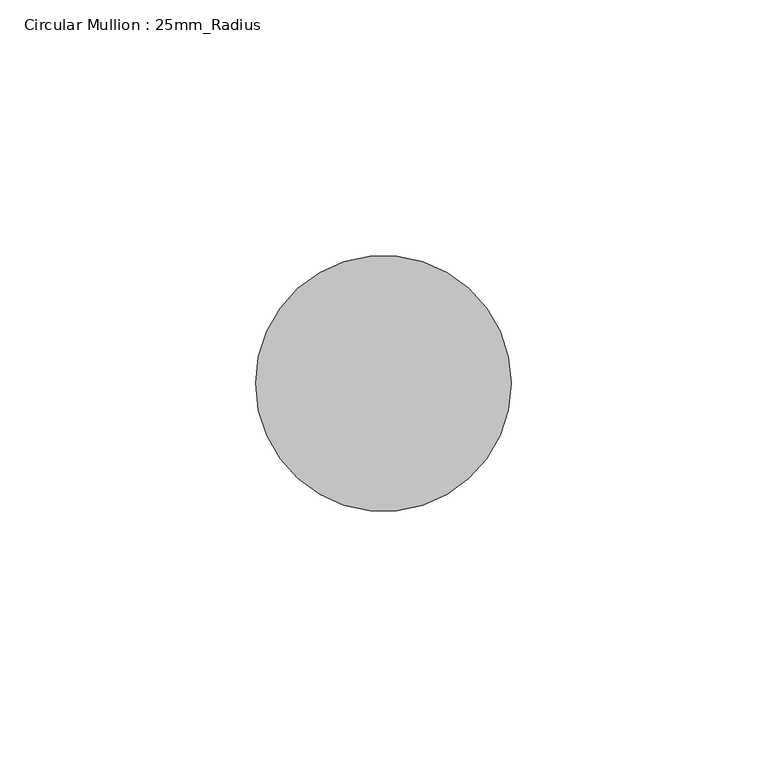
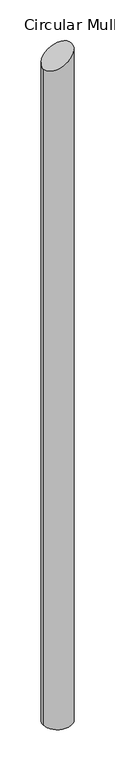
"""IFC4 building model written with IfcOpenShell, lengths in millimetres: member geometry, Circular Mullion : 25mm_Radius."""

import ifcopenshell
import ifcopenshell.guid

model = None  # the IFC model being written
_history = None  # IfcOwnerHistory: only IFC2X3 demands one
_inside = {}  # id of a spatial element -> (the spatial element, [elements in it])
_under = {}  # id of a project, library or spatial element -> (it, [spatial elements below it])
_declared = {}  # id of a project -> (the project, [libraries it declares])
_typed = {}  # id of a type object -> (the type object, [elements of that type])
_made_of = {}  # id of a material, layer set ... -> (it, [elements and type objects made of it])


def new_model(schema):
    """Start an empty IFC model of exactly this schema.

    Asked for "IFC4X3", IfcOpenShell would pick the latest addendum, in which some entities
    have other attributes; the version numbers below select the first issue.
    IFC2X3 requires an IfcOwnerHistory on every rooted entity: one is made here for all.
    """
    global model, _history
    if schema == "IFC4X3":
        model = ifcopenshell.file(schema_version=(4, 3, 0, 0))
    else:
        model = ifcopenshell.file(schema=schema)
    _inside.clear()
    _under.clear()
    _declared.clear()
    _typed.clear()
    _made_of.clear()
    _history = None
    if model.schema == "IFC2X3":
        org = make("IfcOrganization", Name="unknown")
        user = make(
            "IfcPersonAndOrganization",
            ThePerson=make("IfcPerson", FamilyName="unknown"),
            TheOrganization=org,
        )
        app = make(
            "IfcApplication",
            ApplicationDeveloper=org,
            Version="unknown",
            ApplicationFullName="unknown",
            ApplicationIdentifier="unknown",
        )
        _history = make(
            "IfcOwnerHistory",
            OwningUser=user,
            OwningApplication=app,
            ChangeAction="ADDED",
            CreationDate=0,
        )
    return model


def make(cls, **values):
    """One entity of the class cls with the attributes given. An attribute that is None is left unset."""
    return model.create_entity(
        cls, **{name: value for name, value in values.items() if value is not None}
    )


def rooted(cls, **values):
    """An entity with a GlobalId (a new one), such as an element, a storey or a relation."""
    return make(cls, GlobalId=ifcopenshell.guid.new(), OwnerHistory=_history, **values)


def si_unit(unit_type, name, prefix=None):
    """IfcSIUnit, for example si_unit("LENGTHUNIT", "METRE", prefix="MILLI")."""
    return make("IfcSIUnit", UnitType=unit_type, Prefix=prefix, Name=name)


def assignment(units):
    """IfcUnitAssignment: the units of a project."""
    return None if units is None else make("IfcUnitAssignment", Units=units)


def point(xyz):
    """IfcCartesianPoint."""
    return None if xyz is None else make("IfcCartesianPoint", Coordinates=xyz)


def direction(xyz):
    """IfcDirection."""
    return None if xyz is None else make("IfcDirection", DirectionRatios=xyz)


def frame(location, z_axis=None, x_axis=None):
    """IfcAxis2Placement3D, a coordinate frame: its origin and axes. An axis left out is left unset."""
    return make(
        "IfcAxis2Placement3D",
        Location=point(location),
        Axis=direction(z_axis),
        RefDirection=direction(x_axis),
    )


def origin():
    """The frame at (0, 0, 0) with its axes left unset."""
    return frame((0.0, 0.0, 0.0))


def place(relative_to, where):
    """IfcLocalPlacement: puts the frame where relative to a parent placement (None: the world)."""
    return make(
        "IfcLocalPlacement", PlacementRelTo=relative_to, RelativePlacement=where
    )


def context(
    kind, dimensions, precision=None, world=None, true_north=None, identifier=None
):
    """IfcGeometricRepresentationContext, for example the 3D "Model" context."""
    return make(
        "IfcGeometricRepresentationContext",
        ContextIdentifier=identifier,
        ContextType=kind,
        CoordinateSpaceDimension=dimensions,
        Precision=precision,
        WorldCoordinateSystem=world,
        TrueNorth=true_north,
    )


def project(units=None, contexts=None):
    """IfcProject with its units and contexts."""
    return rooted(
        "IfcProject",
        Name="project",
        RepresentationContexts=contexts,
        UnitsInContext=assignment(units),
    )


def spatial(cls, under=None, at=None, **own):
    """A site, building, storey or space (cls), placed at a placement, below another one or the project."""
    s = rooted(cls, ObjectPlacement=at, **own)
    if under is not None:
        _under.setdefault(under.id(), (under, []))[1].append(s)
    return s


def circle_curve(where, radius):
    """IfcCircle in the frame where."""
    return make("IfcCircle", Position=where, Radius=radius)


def ellipse_curve(where, semi_axis1, semi_axis2):
    """IfcEllipse in the frame where."""
    return make(
        "IfcEllipse", Position=where, SemiAxis1=semi_axis1, SemiAxis2=semi_axis2
    )


def shape(context_of_items, identifier, shape_type, items):
    """IfcShapeRepresentation: the items that make up one representation, for example the "Body"."""
    return make(
        "IfcShapeRepresentation",
        ContextOfItems=context_of_items,
        RepresentationIdentifier=identifier,
        RepresentationType=shape_type,
        Items=items,
    )


def source(mapping_origin, context_of_items, identifier, shape_type, items):
    """IfcRepresentationMap: a shape defined once, which mapped items show again and again."""
    return make(
        "IfcRepresentationMap",
        MappingOrigin=mapping_origin,
        MappedRepresentation=shape(context_of_items, identifier, shape_type, items),
    )


def transform(
    local_origin,
    x_axis=None,
    y_axis=None,
    z_axis=None,
    scale=None,
    scale2=None,
    scale3=None,
    uniform=True,
):
    """IfcCartesianTransformationOperator3D, or its non-uniform kind. x_axis, y_axis, z_axis: its Axis1, 2, 3."""
    if uniform:
        return make(
            "IfcCartesianTransformationOperator3D",
            Axis1=direction(x_axis),
            Axis2=direction(y_axis),
            LocalOrigin=point(local_origin),
            Scale=scale,
            Axis3=direction(z_axis),
        )
    return make(
        "IfcCartesianTransformationOperator3DnonUniform",
        Axis1=direction(x_axis),
        Axis2=direction(y_axis),
        LocalOrigin=point(local_origin),
        Scale=scale,
        Axis3=direction(z_axis),
        Scale2=scale2,
        Scale3=scale3,
    )


def mapped(mapping_source, mapping_target):
    """IfcMappedItem: shows the shape of a source again, moved by a transform."""
    return make(
        "IfcMappedItem", MappingSource=mapping_source, MappingTarget=mapping_target
    )


def made_of(thing, what):
    """Note that an element or type object is made of a material, layer set ...; save() writes the relation."""
    if what is not None:
        _made_of.setdefault(what.id(), (what, []))[1].append(thing)
    return thing


def element(
    cls,
    number,
    at=None,
    inside=None,
    cuts=None,
    type_object=None,
    material=None,
    context=None,
    identifier="Body",
    shape_type=None,
    held_by="IfcProductDefinitionShape",
    body=None,
    shapes=None,
    **own,
):
    """One element of the class cls, such as IfcWall. Its Tag is "e" and its number.

    at: its placement. inside: the storey or other place that contains it. cuts: it is an
    opening in that element (IfcRelVoidsElement). A single representation is given by context,
    identifier, shape_type and body (its items); several are given by shapes. held_by: the class
    of the entity that holds the representations. save() writes the other relations.
    """
    e = rooted(cls, Tag="e%d" % number, ObjectPlacement=at, **own)
    if body is not None:
        shapes = [shape(context, identifier, shape_type, body)]
    if shapes is not None:
        e.Representation = make(held_by, Representations=shapes)
    if inside is not None:
        _inside.setdefault(inside.id(), (inside, []))[1].append(e)
    if cuts is not None:
        rooted(
            "IfcRelVoidsElement", RelatingBuildingElement=cuts, RelatedOpeningElement=e
        )
    if type_object is not None:
        _typed.setdefault(type_object.id(), (type_object, []))[1].append(e)
    return made_of(e, material)


def aggregate(whole, parts):
    """IfcRelAggregates: a whole, such as a stair, and the parts it consists of."""
    return rooted("IfcRelAggregates", RelatingObject=whole, RelatedObjects=parts)


def save(model, path):
    """Write the relations noted so far, then the file.

    IfcRelAggregates (storeys below a building ...), IfcRelContainedInSpatialStructure (elements
    in a storey), IfcRelDefinesByType, IfcRelAssociatesMaterial and IfcRelDeclares: one each for
    every whole, place, type object, material and project.
    """
    for whole, parts in _under.values():
        aggregate(whole, parts)
    for where, things in _inside.values():
        rooted(
            "IfcRelContainedInSpatialStructure",
            RelatedElements=things,
            RelatingStructure=where,
        )
    for kind, things in _typed.values():
        rooted("IfcRelDefinesByType", RelatedObjects=things, RelatingType=kind)
    for what, things in _made_of.values():
        rooted("IfcRelAssociatesMaterial", RelatedObjects=things, RelatingMaterial=what)
    for by, libraries in _declared.values():
        rooted("IfcRelDeclares", RelatingContext=by, RelatedDefinitions=libraries)
    model.write(path)


def plane_surface(at):
    """IfcPlane: the flat surface through the origin of the frame at, square to its z axis."""
    return make("IfcPlane", Position=at)


def cylinder_surface(at, radius):
    """IfcCylindricalSurface: all points at the distance radius from the z axis of the frame at."""
    return make("IfcCylindricalSurface", Position=at, Radius=radius)


def advanced_brep(points, edges, surfaces, faces):
    """IfcAdvancedBrep: a solid bounded by faces that lie on surfaces and meet in shared edges.

    An edge is (start, end): straight between two places in points (the first is 0);
    or (start, end, curve); or (start, end, curve, False) where it runs against its curve.
    A face is (place in surfaces, loops), or (place, loops, False) where it looks against
    its surface's normal. A loop lists edges by number (the first is 1), with a minus sign
    where the edge is run from its end to its start. The first loop is the outer one.
    """
    corners = [point(p) for p in points]
    vertices = [make("IfcVertexPoint", VertexGeometry=c) for c in corners]
    made = []
    for start, end, *more in edges:
        made.append(
            make(
                "IfcEdgeCurve",
                EdgeStart=vertices[start],
                EdgeEnd=vertices[end],
                EdgeGeometry=more[0] if more else make("IfcPolyline", Points=[corners[start], corners[end]]),
                SameSense=more[1] if len(more) > 1 else True,
            )
        )
    hull = []
    for where, loops, *sense in faces:
        bounds = []
        for j, loop in enumerate(loops):
            ring = [make("IfcOrientedEdge", EdgeElement=made[abs(k) - 1], Orientation=k > 0) for k in loop]
            bounds.append(
                make(
                    "IfcFaceOuterBound" if j == 0 else "IfcFaceBound",
                    Bound=make("IfcEdgeLoop", EdgeList=ring),
                    Orientation=True,
                )
            )
        hull.append(make("IfcAdvancedFace", Bounds=bounds, FaceSurface=surfaces[where], SameSense=sense[0] if sense else True))
    return make("IfcAdvancedBrep", Outer=make("IfcClosedShell", CfsFaces=hull))


def circular_mullion_25mm_radius_1510d0b8(model_context):
    return source(origin(), model_context, "Body", "AdvancedBrep", [
        advanced_brep(
        [(-50.0, 0.0, -30.10109), (0.0, 0.0, 0.0), (0.0, 0.0, -1236.0236817), (-50.0, 0.0, -1236.0236817)],
        [
            (0, 1, ellipse_curve(frame((-25.0, 0.0, -15.050545), z_axis=(0.5157688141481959, 0.0, -0.856727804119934), x_axis=(0.8567278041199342, 0.0, 0.5157688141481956)), 29.1807968, 25.0)),
            (1, 2),
            (2, 3, circle_curve(frame((-25.0, 0.0, -1236.0236817), z_axis=(0.0, 0.0, 1.0), x_axis=(1.0, 0.0, 0.0)), 25.0)),
            (3, 0),
            (1, 0, ellipse_curve(frame((-25.0, 0.0, -15.050545), z_axis=(0.5157688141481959, 0.0, -0.856727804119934), x_axis=(0.8567278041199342, 0.0, 0.5157688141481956)), 29.1807968, 25.0)),
            (3, 2, circle_curve(frame((-25.0, 0.0, -1236.0236817), z_axis=(0.0, 0.0, 1.0), x_axis=(1.0, 0.0, 0.0)), 25.0)),
        ],
        [
            cylinder_surface(frame((-25.0, 0.0, 0.0), z_axis=(0.0, 0.0, 1.0), x_axis=(1.0, 0.0, 0.0)), 25.0),
            plane_surface(frame((0.0, -304.8, 0.0), z_axis=(-0.5157688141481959, 0.0, 0.856727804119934), x_axis=(-0.856727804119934, 0.0, -0.5157688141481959))),
            plane_surface(frame((-304.8, 0.0, -1236.0236817), z_axis=(0.0, 0.0, -1.0), x_axis=(0.0, 1.0, 0.0))),
        ],
        [
            (0, [[1, 2, 3, 4]]),
            (0, [[5, -4, 6, -2]]),
            (1, [[-1, -5]]),
            (2, [[-6, -3]]),
        ],
    ),
    ])


if __name__ == "__main__":
    model = new_model("IFC4")
    model_context = context("Model", 3, world=origin())
    ifc_project = project(units=[si_unit("LENGTHUNIT", "METRE", prefix="MILLI")], contexts=[model_context])
    site = spatial("IfcSite", under=ifc_project)
    building = spatial("IfcBuilding", under=site)
    placement = place(None, origin())
    circular_mullion_25mm_radius_shape = circular_mullion_25mm_radius_1510d0b8(model_context)
    element("IfcMember", 1, ObjectType="Circular Mullion : 25mm_Radius", at=placement, inside=building, context=model_context, shape_type="MappedRepresentation", body=[
        mapped(circular_mullion_25mm_radius_shape, transform((0.0, 0.0, 0.0), x_axis=(1.0, 0.0, 0.0), y_axis=(0.0, 1.0, 0.0), z_axis=(0.0, 0.0, 1.0))),
    ])
    save(model, "model.ifc")
